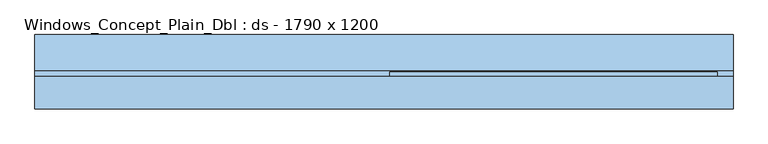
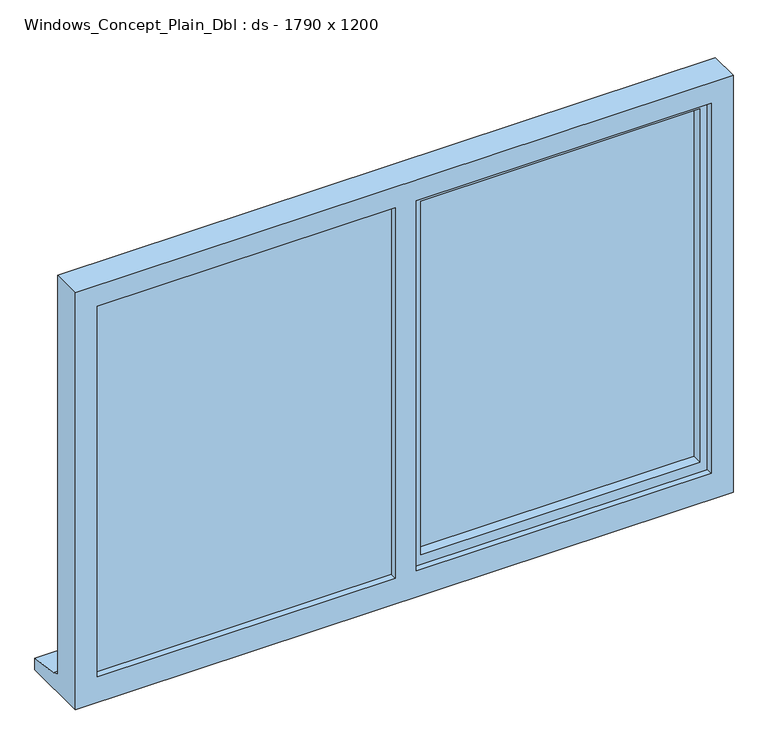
"""IFC4 building model written with IfcOpenShell, lengths in millimetres: window geometry, Windows_Concept_Plain_Dbl : ds - 1790 x 1200."""

from ifc_helpers import new_model, si_unit, frame, origin, place, context, project, spatial, polyline, outline, extrude, faceted_brep, source, transform, mapped, element, save


def windows_concept_plain_dbl_ds_1790_x_1200_683bd13a(model_context):
    return source(origin(), model_context, "Body", "SolidModel", [
        extrude(outline(polyline([(540.0, 52.4565678), (-240.0, 52.4565678), (-240.0, 76.4565678), (540.0, 76.4565678), (540.0, 52.4565678)])), frame((0.0, 0.0, 1003.0), z_axis=(0.0, 0.0, 1.0), x_axis=(1.0, 0.0, 0.0)), (0.0, 0.0, 1.0), 1037.0),
        extrude(outline(polyline([(-1140.0, 47.4565678), (-300.0, 47.4565678), (-300.0, 23.4565678), (-1140.0, 23.4565678), (-1140.0, 47.4565678)])), frame((0.0, 0.0, 973.0), z_axis=(0.0, 0.0, 1.0), x_axis=(1.0, 0.0, 0.0)), (0.0, 0.0, 1.0), 1097.0),
        faceted_brep([(610.0, 5.4565678, 2110.0), (-1180.0, 5.4565678, 2110.0), (-1180.0, 5.4565678, 910.0), (610.0, 5.4565678, 910.0), (550.0, 5.4565678, 2050.0), (550.0, 5.4565678, 985.0), (-252.0, 5.4565678, 985.0), (-252.0, 5.4565678, 2050.0), (-310.0, 5.4565678, 2050.0), (-310.0, 5.4565678, 985.0), (-1120.0, 5.4565678, 985.0), (-1120.0, 5.4565678, 2050.0), (-1180.0, 88.4565678, 2110.0), (-1180.0, 88.4565678, 961.0), (-1180.0, 103.4565678, 959.68767), (-1180.0, 103.4565678, 954.7449676), (-1180.0, 195.9565678, 943.8088847), (-1180.0, 195.9565678, 910.0), (610.0, 88.4565678, 2110.0), (610.0, 88.4565678, 961.0), (-1140.0, 88.4565678, 2070.0), (-1140.0, 88.4565678, 973.0), (-310.0, 88.4565678, 973.0), (-310.0, 88.4565678, 2070.0), (-270.0, 88.4565678, 2070.0), (-270.0, 88.4565678, 973.0), (570.0, 88.4565678, 973.0), (570.0, 88.4565678, 2070.0), (-1140.0, 23.4565678, 2070.0), (-1140.0, 23.4565678, 973.0), (-300.0, 23.4565678, 2070.0), (-300.0, 23.4565678, 973.0), (-310.0, 23.4565678, 2050.0), (-1120.0, 23.4565678, 2050.0), (-1120.0, 23.4565678, 985.0), (-310.0, 23.4565678, 985.0), (-270.0, 23.4565678, 2070.0), (570.0, 23.4565678, 2070.0), (570.0, 23.4565678, 973.0), (-270.0, 23.4565678, 973.0), (550.0, 23.4565678, 2050.0), (-252.0, 23.4565678, 2050.0), (-252.0, 23.4565678, 985.0), (550.0, 23.4565678, 985.0), (-310.0, 47.4565678, 2070.0), (-300.0, 47.4565678, 2070.0), (610.0, 195.9565678, 910.0), (610.0, 195.9565678, 943.8088847), (610.0, 103.4565678, 954.7449676), (610.0, 103.4565678, 959.68767), (-300.0, 47.4565678, 973.0), (-310.0, 47.4565678, 973.0)], [[[0, 1, 2, 3], [4, 5, 6, 7], [8, 9, 10, 11]], [[2, 1, 12, 13, 14, 15, 16, 17]], [[13, 12, 18, 19], [20, 21, 22, 23], [24, 25, 26, 27]], [[21, 20, 28, 29]], [[28, 30, 31, 29], [32, 33, 34, 35]], [[36, 37, 38, 39], [40, 41, 42, 43]], [[33, 11, 10, 34]], [[1, 0, 18, 12]], [[28, 20, 23, 44, 45, 30]], [[27, 37, 36, 24]], [[11, 33, 32, 8]], [[40, 4, 7, 41]], [[19, 18, 0, 3, 46, 47, 48, 49]], [[27, 26, 38, 37]], [[4, 40, 43, 5]], [[45, 50, 31, 30]], [[50, 45, 44, 51]], [[51, 44, 23, 22]], [[25, 24, 36, 39]], [[41, 7, 6, 42]], [[8, 32, 35, 9]], [[46, 3, 2, 17]], [[47, 46, 17, 16]], [[48, 47, 16, 15]], [[49, 48, 15, 14]], [[19, 49, 14, 13]], [[22, 21, 29, 31, 50, 51]], [[26, 25, 39, 38]], [[6, 5, 43, 42]], [[35, 34, 10, 9]]]),
        extrude(outline(polyline([(2050.0, -310.0), (2070.0, -310.0), (2070.0, -1140.0), (973.0, -1140.0), (973.0, -310.0), (993.0, -310.0), (993.0, -1120.0), (2050.0, -1120.0), (2050.0, -310.0)])), frame((0.0, 47.4565678, 0.0), z_axis=(0.0, 1.0, 0.0), x_axis=(0.0, 0.0, 1.0)), (0.0, 0.0, 1.0), 41.0),
        faceted_brep([(-270.0, 23.4565678, 2070.0), (-270.0, 100.0035732, 2070.0), (-270.0, 100.0035732, 973.0), (-270.0, 23.4565678, 973.0), (-230.0, 52.4565678, 2030.0), (-230.0, 23.4565678, 2030.0), (-230.0, 23.4565678, 1013.0), (-230.0, 52.4565678, 1013.0), (-240.0, 76.4565678, 2040.0), (-240.0, 52.4565678, 2040.0), (-240.0, 52.4565678, 1003.0), (-240.0, 76.4565678, 1003.0), (-230.0, 100.0035732, 2030.0), (-230.0, 76.4565678, 2030.0), (-230.0, 76.4565678, 1013.0), (-230.0, 100.0035732, 1013.0), (570.0, 100.0035732, 973.0), (570.0, 23.4565678, 973.0), (530.0, 23.4565678, 1013.0), (530.0, 52.4565678, 1013.0), (540.0, 52.4565678, 1003.0), (540.0, 76.4565678, 1003.0), (530.0, 76.4565678, 1013.0), (530.0, 100.0035732, 1013.0), (570.0, 100.0035732, 2070.0), (570.0, 23.4565678, 2070.0), (530.0, 23.4565678, 2030.0), (530.0, 52.4565678, 2030.0), (540.0, 52.4565678, 2040.0), (540.0, 76.4565678, 2040.0), (530.0, 76.4565678, 2030.0), (530.0, 100.0035732, 2030.0)], [[[0, 1, 2, 3]], [[4, 5, 6, 7]], [[8, 9, 10, 11]], [[12, 13, 14, 15]], [[3, 2, 16, 17]], [[7, 6, 18, 19]], [[11, 10, 20, 21]], [[15, 14, 22, 23]], [[17, 16, 24, 25]], [[19, 18, 26, 27]], [[21, 20, 28, 29]], [[23, 22, 30, 31]], [[1, 24, 16, 2], [15, 23, 31, 12]], [[25, 24, 1, 0]], [[3, 17, 25, 0], [5, 26, 18, 6]], [[27, 26, 5, 4]], [[9, 28, 20, 10], [7, 19, 27, 4]], [[29, 28, 9, 8]], [[11, 21, 29, 8], [13, 30, 22, 14]], [[31, 30, 13, 12]]]),
    ])


if __name__ == "__main__":
    model = new_model("IFC4")
    model_context = context("Model", 3, world=origin())
    ifc_project = project(units=[si_unit("LENGTHUNIT", "METRE", prefix="MILLI")], contexts=[model_context])
    site = spatial("IfcSite", under=ifc_project)
    building = spatial("IfcBuilding", under=site)
    placement = place(None, origin())
    windows_concept_plain_dbl_ds_1790_x_1200_shape = windows_concept_plain_dbl_ds_1790_x_1200_683bd13a(model_context)
    element("IfcWindow", 1, ObjectType="Windows_Concept_Plain_Dbl : ds - 1790 x 1200", at=placement, inside=building, context=model_context, shape_type="MappedRepresentation", body=[
        mapped(windows_concept_plain_dbl_ds_1790_x_1200_shape, transform((0.0, 0.0, 0.0), x_axis=(1.0, 0.0, 0.0), y_axis=(0.0, 1.0, 0.0), z_axis=(0.0, 0.0, 1.0))),
    ])
    save(model, "model.ifc")
